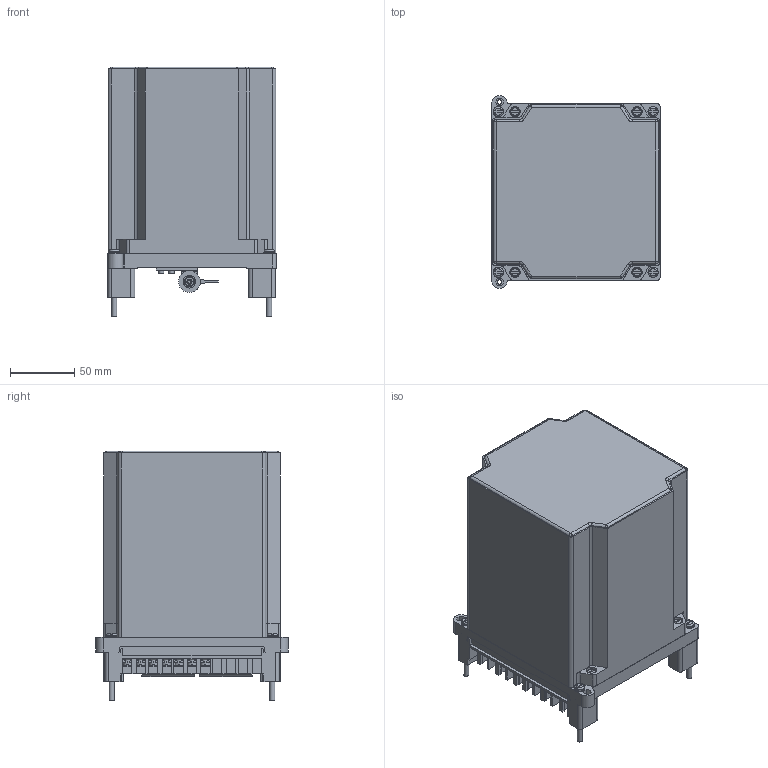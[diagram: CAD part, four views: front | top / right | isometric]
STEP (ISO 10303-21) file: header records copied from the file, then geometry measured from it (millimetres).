
FILE_DESCRIPTION(('STEP AP214'), '1');
FILE_NAME('ÐÒÔ-8 ç.ï.', '', ('UNSPECIFIED'), ('UNSPECIFIED'), 'ASCON STEP Converter 1.3', 'ASCON Math Kernel', '');
FILE_SCHEMA(('AUTOMOTIVE_DESIGN { 1 0 10303 214 3 1 1}'));
Length unit declared in the file: millimetre
Bounding box: 131 x 149.97 x 194.5 mm (x, y, z)
Volume: 2644817.8 mm3; surface area: 201526.8 mm2
Topology: 1 solids, 1 shells, 8116 faces, 19692 edges, 11875 vertices
Faces by surface type: plane 6495, cylinder 869, extrusion 628, torus 85, cone 39
Full cylindrical faces by diameter (mm): 2 x4, 3.5 x2, 4 x33, 4.3 x10, 4.5 x29, 5.2 x11, 5.3 x5, 5.9 x2, 7.5 x2, 8 x10, 8.5 x2, 10 x4, 17 x2
Entity records: 299830 total; most frequent: CARTESIAN_POINT 49074, ORIENTED_EDGE 38968, DIRECTION 35562, EDGE_CURVE 19484, VECTOR 16550, LINE 15922, VERTEX_POINT 11868, AXIS2_PLACEMENT_3D 9506
